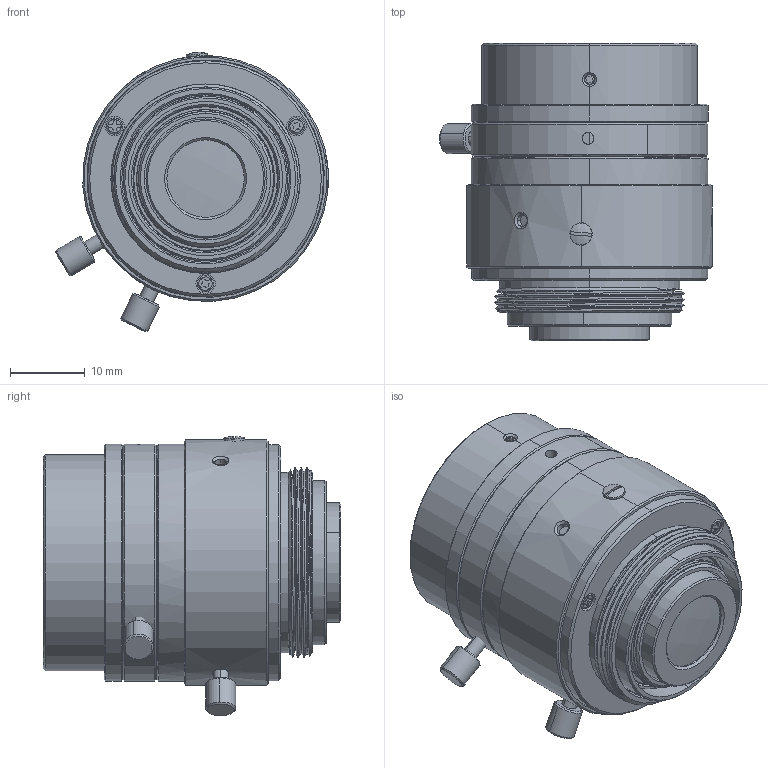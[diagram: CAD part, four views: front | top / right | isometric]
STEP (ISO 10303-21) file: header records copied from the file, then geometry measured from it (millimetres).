
FILE_DESCRIPTION (( 'STEP AP203' ), '1' );
FILE_NAME ('HN-P-1628-6M-C1-1.8_3D_Modeling.STEP', '2023-03-29T08:32:24', ( 'DH' ), ( '' ), 'SwSTEP 2.0', 'SolidWorks 2016', '' );
FILE_SCHEMA (( 'CONFIG_CONTROL_DESIGN' ));
Length unit declared in the file: millimetre
Products named in the file (21): HN-P-1628-6M-C1-1.8_3D_Modeling; DH-16-307; DH-16-G01; DH-16-01_ASM; DH-16-301; DH-16-401; DH-16-203; DH-16-G08; DH-16-308; DH-16-108; DH-16-502; DH-16-02_ASM; DH-16-501; DH-16-202; DH-16-504; DH-16-403; DH-16-101; DH-16-503; DH-16-404; DH-16-201; DH-16-102
Assembly tree (25 placements, depth 3):
  HN-P-1628-6M-C1-1.8_3D_Modeling
    DH-16-201
    DH-16-01_ASM
      DH-16-G01
      DH-16-101
      DH-16-102
    DH-16-401
    DH-16-02_ASM
      DH-16-G08
      DH-16-108
    DH-16-202
    DH-16-403
    DH-16-404
    DH-16-307
    DH-16-301
    DH-16-203
    DH-16-308
    DH-16-502  x3
    DH-16-501  x2
    DH-16-504
    DH-16-503  x3
Bounding box: 36.64 x 39.96 x 37.53 mm (x, y, z)
Volume: 5848.8 mm3; surface area: 25955.5 mm2
Topology: 19 solids, 24 shells, 1032 faces, 2738 edges, 1781 vertices
Faces by surface type: cylinder 375, cone 249, plane 225, bspline 183
Entity records: 73328 total; most frequent: CARTESIAN_POINT 50430, ORIENTED_EDGE 4795, DIRECTION 3405, EDGE_CURVE 2406, VERTEX_POINT 1567, AXIS2_PLACEMENT_3D 1309, B_SPLINE_CURVE_WITH_KNOTS 1065, EDGE_LOOP 1026
